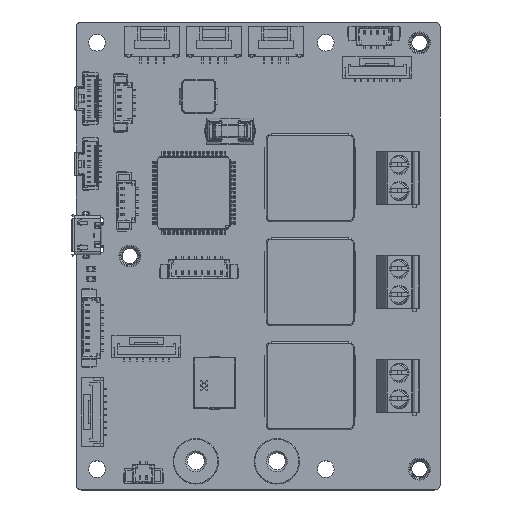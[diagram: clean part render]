
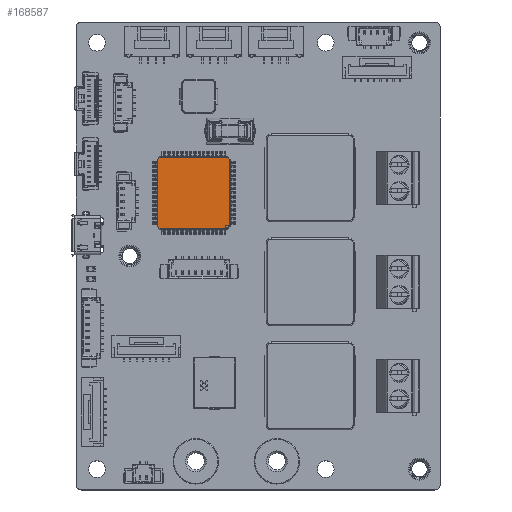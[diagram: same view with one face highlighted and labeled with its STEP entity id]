
A CAD part, top view. The second image highlights one B-rep face of the part: STEP entity #168587.
In plain terms, the highlighted planar face has unit normal (0, 0, 1).
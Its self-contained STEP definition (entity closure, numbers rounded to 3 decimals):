
#6732 = CARTESIAN_POINT ( 'NONE',  ( 79.5, 50.642, 1.6 ) ) ;
#7675 = CARTESIAN_POINT ( 'NONE',  ( 66.141, 50.2, 1.6 ) ) ;
#11720 = EDGE_CURVE ( 'NONE', #267351, #116237, #121726, .T. ) ;
#17246 = EDGE_CURVE ( 'NONE', #268262, #235102, #199346, .T. ) ;
#19183 = CARTESIAN_POINT ( 'NONE',  ( 79.058, 50.2, 1.6 ) ) ;
#25610 = LINE ( 'NONE', #31466, #188726 ) ;
#31466 = CARTESIAN_POINT ( 'NONE',  ( 79.279, 63.78, 1.6 ) ) ;
#31806 = VECTOR ( 'NONE', #54383, 1000. ) ;
#32163 = LINE ( 'NONE', #50123, #274236 ) ;
#32604 = VECTOR ( 'NONE', #51625, 1000. ) ;
#32974 = EDGE_CURVE ( 'NONE', #235102, #268262, #89454, .T. ) ;
#42709 = VERTEX_POINT ( 'NONE', #165594 ) ;
#43253 = EDGE_LOOP ( 'NONE', ( #48031, #168565, #120325, #295340, #74346, #201135, #131437, #207914 ) ) ;
#48031 = ORIENTED_EDGE ( 'NONE', *, *, #121222, .F. ) ;
#48477 = CARTESIAN_POINT ( 'NONE',  ( 65.921, 63.78, 1.6 ) ) ;
#50123 = CARTESIAN_POINT ( 'NONE',  ( 72.6, 64., 1.6 ) ) ;
#50156 = CARTESIAN_POINT ( 'NONE',  ( 79.5, 57.1, 1.6 ) ) ;
#51625 = DIRECTION ( 'NONE',  ( 0., -1., 0. ) ) ;
#51960 = AXIS2_PLACEMENT_3D ( 'NONE', #271860, #207603, #135987 ) ;
#54383 = DIRECTION ( 'NONE',  ( -0.707, 0.707, 0. ) ) ;
#57784 = PLANE ( 'NONE',  #276270 ) ;
#66006 = VERTEX_POINT ( 'NONE', #267805 ) ;
#70179 = DIRECTION ( 'NONE',  ( 0., 0., -1. ) ) ;
#74346 = ORIENTED_EDGE ( 'NONE', *, *, #124826, .F. ) ;
#76566 = VERTEX_POINT ( 'NONE', #7675 ) ;
#79170 = VERTEX_POINT ( 'NONE', #133806 ) ;
#89454 = CIRCLE ( 'NONE', #256330, 0.25 ) ;
#92900 = CARTESIAN_POINT ( 'NONE',  ( 78.75, 50.7, 1.6 ) ) ;
#93901 = CARTESIAN_POINT ( 'NONE',  ( 79.25, 50.7, 1.6 ) ) ;
#102599 = EDGE_CURVE ( 'NONE', #42709, #267351, #25610, .T. ) ;
#103495 = EDGE_CURVE ( 'NONE', #248069, #66006, #231893, .T. ) ;
#112651 = DIRECTION ( 'NONE',  ( 0.707, 0.707, 0. ) ) ;
#116237 = VERTEX_POINT ( 'NONE', #6732 ) ;
#116742 = ORIENTED_EDGE ( 'NONE', *, *, #32974, .T. ) ;
#120325 = ORIENTED_EDGE ( 'NONE', *, *, #11720, .F. ) ;
#121222 = EDGE_CURVE ( 'NONE', #270776, #76566, #147853, .T. ) ;
#121726 = LINE ( 'NONE', #50156, #32604 ) ;
#124826 = EDGE_CURVE ( 'NONE', #79170, #42709, #32163, .T. ) ;
#131437 = ORIENTED_EDGE ( 'NONE', *, *, #103495, .F. ) ;
#133806 = CARTESIAN_POINT ( 'NONE',  ( 66.141, 64., 1.6 ) ) ;
#135987 = DIRECTION ( 'NONE',  ( -1., 0., 0. ) ) ;
#137319 = CARTESIAN_POINT ( 'NONE',  ( 79., 50.7, 1.6 ) ) ;
#138003 = LINE ( 'NONE', #48477, #202282 ) ;
#141641 = DIRECTION ( 'NONE',  ( -0.707, -0.707, 0. ) ) ;
#147507 = LINE ( 'NONE', #281909, #226184 ) ;
#147853 = LINE ( 'NONE', #197061, #229944 ) ;
#153178 = FACE_OUTER_BOUND ( 'NONE', #43253, .T. ) ;
#165594 = CARTESIAN_POINT ( 'NONE',  ( 79.058, 64., 1.6 ) ) ;
#168565 = ORIENTED_EDGE ( 'NONE', *, *, #209549, .F. ) ;
#168587 = ADVANCED_FACE ( 'NONE', ( #153178, #171161 ), #57784, .T. ) ;
#171161 = FACE_BOUND ( 'NONE', #291367, .T. ) ;
#179424 = ORIENTED_EDGE ( 'NONE', *, *, #17246, .T. ) ;
#188726 = VECTOR ( 'NONE', #234430, 1000. ) ;
#188794 = DIRECTION ( 'NONE',  ( 1., 0., 0. ) ) ;
#190156 = CARTESIAN_POINT ( 'NONE',  ( 65.921, 50.421, 1.6 ) ) ;
#196485 = DIRECTION ( 'NONE',  ( -1., 0., 0. ) ) ;
#197061 = CARTESIAN_POINT ( 'NONE',  ( 72.6, 50.2, 1.6 ) ) ;
#199346 = CIRCLE ( 'NONE', #51960, 0.25 ) ;
#199464 = DIRECTION ( 'NONE',  ( 0., 0., 1. ) ) ;
#201135 = ORIENTED_EDGE ( 'NONE', *, *, #259380, .F. ) ;
#202282 = VECTOR ( 'NONE', #112651, 1000. ) ;
#207458 = DIRECTION ( 'NONE',  ( -1., 0., 0. ) ) ;
#207603 = DIRECTION ( 'NONE',  ( 0., 0., -1. ) ) ;
#207914 = ORIENTED_EDGE ( 'NONE', *, *, #247637, .F. ) ;
#209549 = EDGE_CURVE ( 'NONE', #116237, #270776, #147507, .T. ) ;
#210858 = VECTOR ( 'NONE', #260178, 1000. ) ;
#212572 = LINE ( 'NONE', #190156, #31806 ) ;
#226184 = VECTOR ( 'NONE', #141641, 1000. ) ;
#228986 = CARTESIAN_POINT ( 'NONE',  ( 79.5, 63.559, 1.6 ) ) ;
#229944 = VECTOR ( 'NONE', #238952, 1000. ) ;
#231893 = LINE ( 'NONE', #281072, #210858 ) ;
#234430 = DIRECTION ( 'NONE',  ( 0.707, -0.707, 0. ) ) ;
#234635 = CARTESIAN_POINT ( 'NONE',  ( 65.7, 50.642, 1.6 ) ) ;
#235102 = VERTEX_POINT ( 'NONE', #92900 ) ;
#238952 = DIRECTION ( 'NONE',  ( -1., 0., 0. ) ) ;
#244253 = CARTESIAN_POINT ( 'NONE',  ( 72.6, 57.1, 1.6 ) ) ;
#247637 = EDGE_CURVE ( 'NONE', #76566, #248069, #212572, .T. ) ;
#248069 = VERTEX_POINT ( 'NONE', #234635 ) ;
#256330 = AXIS2_PLACEMENT_3D ( 'NONE', #137319, #70179, #207458 ) ;
#259380 = EDGE_CURVE ( 'NONE', #66006, #79170, #138003, .T. ) ;
#260178 = DIRECTION ( 'NONE',  ( 0., 1., 0. ) ) ;
#267351 = VERTEX_POINT ( 'NONE', #228986 ) ;
#267805 = CARTESIAN_POINT ( 'NONE',  ( 65.7, 63.559, 1.6 ) ) ;
#268262 = VERTEX_POINT ( 'NONE', #93901 ) ;
#270776 = VERTEX_POINT ( 'NONE', #19183 ) ;
#271860 = CARTESIAN_POINT ( 'NONE',  ( 79., 50.7, 1.6 ) ) ;
#274236 = VECTOR ( 'NONE', #188794, 1000. ) ;
#276270 = AXIS2_PLACEMENT_3D ( 'NONE', #244253, #199464, #196485 ) ;
#281072 = CARTESIAN_POINT ( 'NONE',  ( 65.7, 57.1, 1.6 ) ) ;
#281909 = CARTESIAN_POINT ( 'NONE',  ( 79.279, 50.421, 1.6 ) ) ;
#291367 = EDGE_LOOP ( 'NONE', ( #116742, #179424 ) ) ;
#295340 = ORIENTED_EDGE ( 'NONE', *, *, #102599, .F. ) ;
